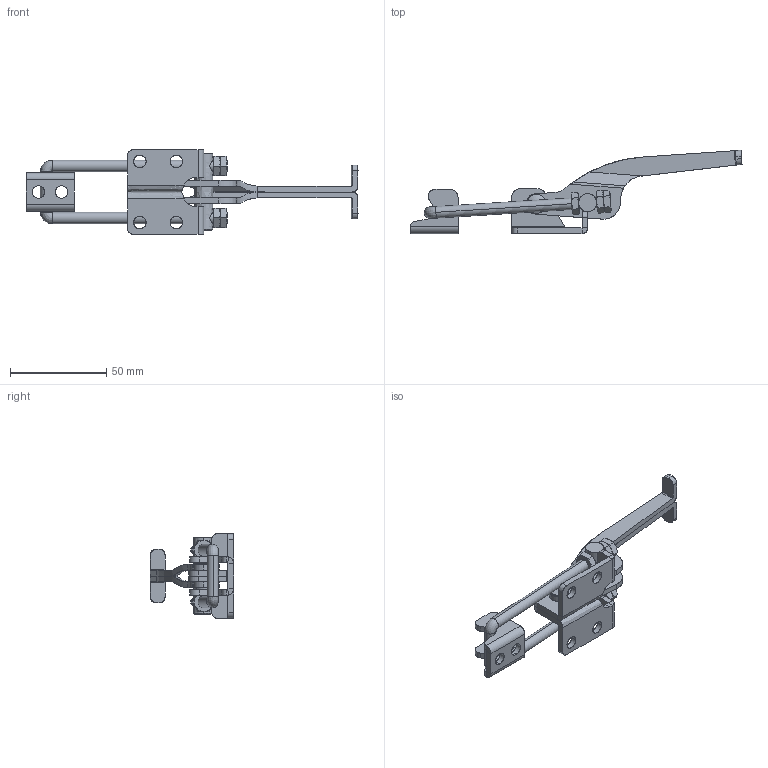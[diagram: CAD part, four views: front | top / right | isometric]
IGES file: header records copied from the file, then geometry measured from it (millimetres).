
Start section: SolidWorks IGES file using analytic representation for surfaces
Global section: file name: \\BARTOP_SV6\share\SOLIDWORKS\工具事業部\坂入用\Toggle clamp\ISK-FA2000\ISK-FA2000.IGS; native system: SolidWorks 2015; preprocessor: SolidWorks 2015; author: SOLID02; date: 150818.142827; units: millimetre
Bounding box: 172.87 x 43.43 x 44 mm (x, y, z)
Surface area: 24619.3 mm2 (no closed solid volume)
Topology: 0 solids, 0 shells, 374 faces, 4850 edges, 4846 vertices
Faces by surface type: revolution 219, bspline 155
